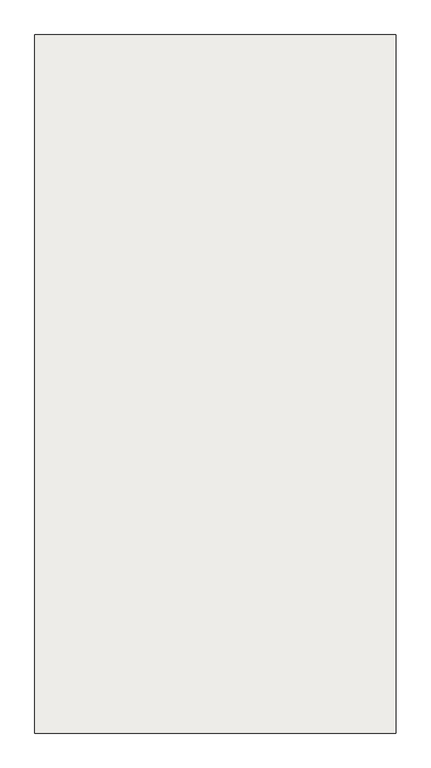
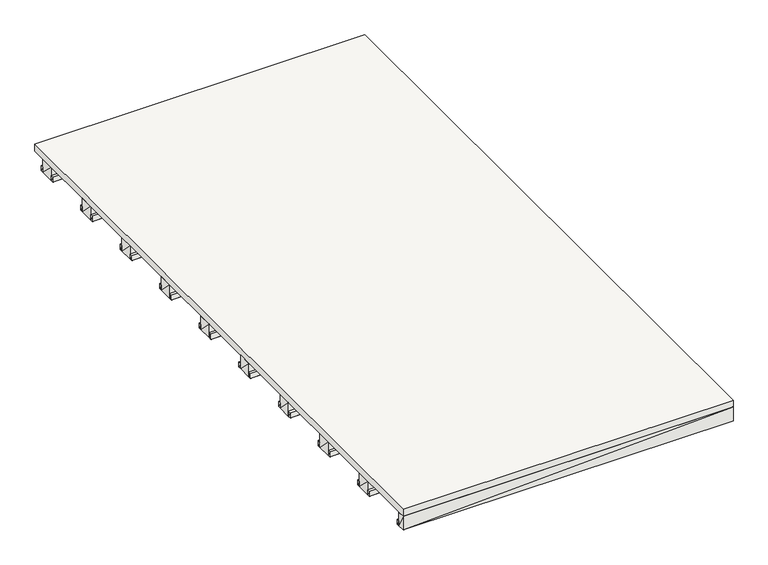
"""IFC4 building model written with IfcOpenShell, lengths in millimetres: slab geometry."""

from ifc_helpers import new_model, si_unit, frame, origin, place, context, project, spatial, polyline, outline, extrude, faceted_brep, source, transform, mapped, element, save


def slab_0752f4fd(model_context):
    return source(origin(), model_context, "Body", "SolidModel", [
        faceted_brep([(-914.995, -207.4, -120.0), (914.995, -207.4, -120.0), (914.995, -287.4, -120.0), (-914.995, -287.4, -120.0), (-914.995, -287.4, -40.0), (914.995, -287.4, -40.0), (914.995, -207.4, -40.0), (-914.995, -207.4, -40.0)], [[[0, 1, 2, 3]], [[4, 5, 6, 7]], [[4, 3, 5]], [[3, 2, 5]], [[5, 2, 6]], [[2, 1, 6]], [[6, 1, 7]], [[1, 0, 7]], [[7, 0, 4]], [[0, 3, 4]]]),
        faceted_brep([(-914.995, -667.4, -120.0), (914.995, -667.4, -120.0), (914.995, -682.4, -120.0), (-914.995, -682.4, -120.0), (-914.995, -682.4, -90.0), (914.995, -682.4, -90.0), (914.995, -667.4, -90.0), (-914.995, -667.4, -90.0)], [[[0, 1, 2, 3]], [[4, 5, 6, 7]], [[4, 3, 5]], [[3, 2, 5]], [[5, 2, 6]], [[2, 1, 6]], [[6, 1, 7]], [[1, 0, 7]], [[7, 0, 4]], [[0, 3, 4]]]),
        faceted_brep([(-914.995, -1727.4, -120.0), (914.995, -1727.4, -120.0), (914.995, -1767.395, -120.0), (-914.995, -1767.395, -120.0), (-914.995, -1767.395, -40.0), (914.995, -1767.395, -40.0), (914.995, -1727.4, -40.0), (-914.995, -1727.4, -40.0)], [[[0, 1, 2, 3]], [[4, 5, 6, 7]], [[4, 3, 5]], [[3, 2, 5]], [[5, 2, 6]], [[2, 1, 6]], [[6, 1, 7]], [[1, 0, 7]], [[7, 0, 4]], [[0, 3, 4]]]),
        faceted_brep([(-914.995, -572.4, -120.0), (914.995, -572.4, -120.0), (914.995, -587.4, -120.0), (-914.995, -587.4, -120.0), (-914.995, -587.4, -90.0), (914.995, -587.4, -90.0), (914.995, -572.4, -90.0), (-914.995, -572.4, -90.0)], [[[0, 1, 2, 3]], [[4, 5, 6, 7]], [[4, 3, 5]], [[3, 2, 5]], [[5, 2, 6]], [[2, 1, 6]], [[6, 1, 7]], [[1, 0, 7]], [[7, 0, 4]], [[0, 3, 4]]]),
        extrude(outline(polyline([(-914.99, 1767.4), (914.99, 1767.4), (915.0, -1767.4), (-915.0, -1767.39), (-914.99, 1767.4)])), frame((0.0, 0.0, -40.0), z_axis=(0.0, 0.0, 1.0), x_axis=(1.0, 0.0, 0.0)), (0.0, 0.0, 1.0), 40.0),
        faceted_brep([(-914.995, -287.4, -120.0), (914.995, -287.4, -120.0), (914.995, -302.4, -120.0), (-914.995, -302.4, -120.0), (-914.995, -302.4, -90.0), (914.995, -302.4, -90.0), (914.995, -287.4, -90.0), (-914.995, -287.4, -90.0)], [[[0, 1, 2, 3]], [[4, 5, 6, 7]], [[4, 3, 5]], [[3, 2, 5]], [[5, 2, 6]], [[2, 1, 6]], [[6, 1, 7]], [[1, 0, 7]], [[7, 0, 4]], [[0, 3, 4]]]),
        faceted_brep([(-914.995, 852.6, -120.0), (914.995, 852.6, -120.0), (914.995, 837.6, -120.0), (-914.995, 837.6, -120.0), (-914.995, 837.6, -90.0), (914.995, 837.6, -90.0), (914.995, 852.6, -90.0), (-914.995, 852.6, -90.0)], [[[0, 1, 2, 3]], [[4, 5, 6, 7]], [[4, 3, 5]], [[3, 2, 5]], [[5, 2, 6]], [[2, 1, 6]], [[6, 1, 7]], [[1, 0, 7]], [[7, 0, 4]], [[0, 3, 4]]]),
        faceted_brep([(-914.995, -1427.4, -120.0), (914.995, -1427.4, -120.0), (914.995, -1442.4, -120.0), (-914.995, -1442.4, -120.0), (-914.995, -1442.4, -90.0), (914.995, -1442.4, -90.0), (914.995, -1427.4, -90.0), (-914.995, -1427.4, -90.0)], [[[0, 1, 2, 3]], [[4, 5, 6, 7]], [[4, 3, 5]], [[3, 2, 5]], [[5, 2, 6]], [[2, 1, 6]], [[6, 1, 7]], [[1, 0, 7]], [[7, 0, 4]], [[0, 3, 4]]]),
        faceted_brep([(-914.995, -967.4, -120.0), (914.995, -967.4, -120.0), (914.995, -1047.4, -120.0), (-914.995, -1047.4, -120.0), (-914.995, -1047.4, -40.0), (914.995, -1047.4, -40.0), (914.995, -967.4, -40.0), (-914.995, -967.4, -40.0)], [[[0, 1, 2, 3]], [[4, 5, 6, 7]], [[4, 3, 5]], [[3, 2, 5]], [[5, 2, 6]], [[2, 1, 6]], [[6, 1, 7]], [[1, 0, 7]], [[7, 0, 4]], [[0, 3, 4]]]),
        faceted_brep([(-914.995, 1232.6, -120.0), (914.995, 1232.6, -120.0), (914.995, 1217.6, -120.0), (-914.995, 1217.6, -120.0), (-914.995, 1217.6, -90.0), (914.995, 1217.6, -90.0), (914.995, 1232.6, -90.0), (-914.995, 1232.6, -90.0)], [[[0, 1, 2, 3]], [[4, 5, 6, 7]], [[4, 3, 5]], [[3, 2, 5]], [[5, 2, 6]], [[2, 1, 6]], [[6, 1, 7]], [[1, 0, 7]], [[7, 0, 4]], [[0, 3, 4]]]),
        faceted_brep([(-914.995, 1707.6, -120.0), (914.995, 1707.6, -120.0), (914.995, 1692.6, -120.0), (-914.995, 1692.6, -120.0), (-914.995, 1692.6, -90.0), (914.995, 1692.6, -90.0), (914.995, 1707.6, -90.0), (-914.995, 1707.6, -90.0)], [[[0, 1, 2, 3]], [[4, 5, 6, 7]], [[4, 3, 5]], [[3, 2, 5]], [[5, 2, 6]], [[2, 1, 6]], [[6, 1, 7]], [[1, 0, 7]], [[7, 0, 4]], [[0, 3, 4]]]),
        faceted_brep([(-914.995, 1327.6, -120.0), (914.995, 1327.6, -120.0), (914.995, 1312.6, -120.0), (-914.995, 1312.6, -120.0), (-914.995, 1312.6, -90.0), (914.995, 1312.6, -90.0), (914.995, 1327.6, -90.0), (-914.995, 1327.6, -90.0)], [[[0, 1, 2, 3]], [[4, 5, 6, 7]], [[4, 3, 5]], [[3, 2, 5]], [[5, 2, 6]], [[2, 1, 6]], [[6, 1, 7]], [[1, 0, 7]], [[7, 0, 4]], [[0, 3, 4]]]),
        faceted_brep([(-914.995, 567.6, -120.0), (914.995, 567.6, -120.0), (914.995, 552.6, -120.0), (-914.995, 552.6, -120.0), (-914.995, 552.6, -90.0), (914.995, 552.6, -90.0), (914.995, 567.6, -90.0), (-914.995, 567.6, -90.0)], [[[0, 1, 2, 3]], [[4, 5, 6, 7]], [[4, 3, 5]], [[3, 2, 5]], [[5, 2, 6]], [[2, 1, 6]], [[6, 1, 7]], [[1, 0, 7]], [[7, 0, 4]], [[0, 3, 4]]]),
        faceted_brep([(-914.995, 187.6, -120.0), (914.995, 187.6, -120.0), (914.995, 172.6, -120.0), (-914.995, 172.6, -120.0), (-914.995, 172.6, -90.0), (914.995, 172.6, -90.0), (914.995, 187.6, -90.0), (-914.995, 187.6, -90.0)], [[[0, 1, 2, 3]], [[4, 5, 6, 7]], [[4, 3, 5]], [[3, 2, 5]], [[5, 2, 6]], [[2, 1, 6]], [[6, 1, 7]], [[1, 0, 7]], [[7, 0, 4]], [[0, 3, 4]]]),
        faceted_brep([(-914.995, 1612.6, -120.0), (914.995, 1612.6, -120.0), (914.995, 1597.6, -120.0), (-914.995, 1597.6, -120.0), (-914.995, 1597.6, -90.0), (914.995, 1597.6, -90.0), (914.995, 1612.6, -90.0), (-914.995, 1612.6, -90.0)], [[[0, 1, 2, 3]], [[4, 5, 6, 7]], [[4, 3, 5]], [[3, 2, 5]], [[5, 2, 6]], [[2, 1, 6]], [[6, 1, 7]], [[1, 0, 7]], [[7, 0, 4]], [[0, 3, 4]]]),
        faceted_brep([(-914.995, -192.4, -120.0), (914.995, -192.4, -120.0), (914.995, -207.4, -120.0), (-914.995, -207.4, -120.0), (-914.995, -207.4, -90.0), (914.995, -207.4, -90.0), (914.995, -192.4, -90.0), (-914.995, -192.4, -90.0)], [[[0, 1, 2, 3]], [[4, 5, 6, 7]], [[4, 3, 5]], [[3, 2, 5]], [[5, 2, 6]], [[2, 1, 6]], [[6, 1, 7]], [[1, 0, 7]], [[7, 0, 4]], [[0, 3, 4]]]),
        faceted_brep([(-914.995, 932.6, -120.0), (914.995, 932.6, -120.0), (914.995, 852.6, -120.0), (-914.995, 852.6, -120.0), (-914.995, 852.6, -40.0), (914.995, 852.6, -40.0), (914.995, 932.6, -40.0), (-914.995, 932.6, -40.0)], [[[0, 1, 2, 3]], [[4, 5, 6, 7]], [[4, 3, 5]], [[3, 2, 5]], [[5, 2, 6]], [[2, 1, 6]], [[6, 1, 7]], [[1, 0, 7]], [[7, 0, 4]], [[0, 3, 4]]]),
        faceted_brep([(-914.995, -1712.4, -120.0), (914.995, -1712.4, -120.0), (914.995, -1727.4, -120.0), (-914.995, -1727.4, -120.0), (-914.995, -1727.4, -90.0), (914.995, -1727.4, -90.0), (914.995, -1712.4, -90.0), (-914.995, -1712.4, -90.0)], [[[0, 1, 2, 3]], [[4, 5, 6, 7]], [[4, 3, 5]], [[3, 2, 5]], [[5, 2, 6]], [[2, 1, 6]], [[6, 1, 7]], [[1, 0, 7]], [[7, 0, 4]], [[0, 3, 4]]]),
        faceted_brep([(-914.995, 1692.6, -120.0), (914.995, 1692.6, -120.0), (914.995, 1612.6, -120.0), (-914.995, 1612.6, -120.0), (-914.995, 1612.6, -40.0), (914.995, 1612.6, -40.0), (914.995, 1692.6, -40.0), (-914.995, 1692.6, -40.0)], [[[0, 1, 2, 3]], [[4, 5, 6, 7]], [[4, 3, 5]], [[3, 2, 5]], [[5, 2, 6]], [[2, 1, 6]], [[6, 1, 7]], [[1, 0, 7]], [[7, 0, 4]], [[0, 3, 4]]]),
        faceted_brep([(-914.995, 92.6, -120.0), (914.995, 92.6, -120.0), (914.995, 77.6, -120.0), (-914.995, 77.6, -120.0), (-914.995, 77.6, -90.0), (914.995, 77.6, -90.0), (914.995, 92.6, -90.0), (-914.995, 92.6, -90.0)], [[[0, 1, 2, 3]], [[4, 5, 6, 7]], [[4, 3, 5]], [[3, 2, 5]], [[5, 2, 6]], [[2, 1, 6]], [[6, 1, 7]], [[1, 0, 7]], [[7, 0, 4]], [[0, 3, 4]]]),
        faceted_brep([(-914.995, -952.4, -120.0), (914.995, -952.4, -120.0), (914.995, -967.4, -120.0), (-914.995, -967.4, -120.0), (-914.995, -967.4, -90.0), (914.995, -967.4, -90.0), (914.995, -952.4, -90.0), (-914.995, -952.4, -90.0)], [[[0, 1, 2, 3]], [[4, 5, 6, 7]], [[4, 3, 5]], [[3, 2, 5]], [[5, 2, 6]], [[2, 1, 6]], [[6, 1, 7]], [[1, 0, 7]], [[7, 0, 4]], [[0, 3, 4]]]),
        faceted_brep([(-914.995, -587.4, -120.0), (914.995, -587.4, -120.0), (914.995, -667.4, -120.0), (-914.995, -667.4, -120.0), (-914.995, -667.4, -40.0), (914.995, -667.4, -40.0), (914.995, -587.4, -40.0), (-914.995, -587.4, -40.0)], [[[0, 1, 2, 3]], [[4, 5, 6, 7]], [[4, 3, 5]], [[3, 2, 5]], [[5, 2, 6]], [[2, 1, 6]], [[6, 1, 7]], [[1, 0, 7]], [[7, 0, 4]], [[0, 3, 4]]]),
        faceted_brep([(-914.995, -1332.4, -120.0), (914.995, -1332.4, -120.0), (914.995, -1347.4, -120.0), (-914.995, -1347.4, -120.0), (-914.995, -1347.4, -90.0), (914.995, -1347.4, -90.0), (914.995, -1332.4, -90.0), (-914.995, -1332.4, -90.0)], [[[0, 1, 2, 3]], [[4, 5, 6, 7]], [[4, 3, 5]], [[3, 2, 5]], [[5, 2, 6]], [[2, 1, 6]], [[6, 1, 7]], [[1, 0, 7]], [[7, 0, 4]], [[0, 3, 4]]]),
        faceted_brep([(-914.995, 172.6, -120.0), (914.995, 172.6, -120.0), (914.995, 92.6, -120.0), (-914.995, 92.6, -120.0), (-914.995, 92.6, -40.0), (914.995, 92.6, -40.0), (914.995, 172.6, -40.0), (-914.995, 172.6, -40.0)], [[[0, 1, 2, 3]], [[4, 5, 6, 7]], [[4, 3, 5]], [[3, 2, 5]], [[5, 2, 6]], [[2, 1, 6]], [[6, 1, 7]], [[1, 0, 7]], [[7, 0, 4]], [[0, 3, 4]]]),
        faceted_brep([(-914.995, 1312.6, -120.0), (914.995, 1312.6, -120.0), (914.995, 1232.6, -120.0), (-914.995, 1232.6, -120.0), (-914.995, 1232.6, -40.0), (914.995, 1232.6, -40.0), (914.995, 1312.6, -40.0), (-914.995, 1312.6, -40.0)], [[[0, 1, 2, 3]], [[4, 5, 6, 7]], [[4, 3, 5]], [[3, 2, 5]], [[5, 2, 6]], [[2, 1, 6]], [[6, 1, 7]], [[1, 0, 7]], [[7, 0, 4]], [[0, 3, 4]]]),
        faceted_brep([(-914.995, -1047.4, -120.0), (914.995, -1047.4, -120.0), (914.995, -1062.4, -120.0), (-914.995, -1062.4, -120.0), (-914.995, -1062.4, -90.0), (914.995, -1062.4, -90.0), (914.995, -1047.4, -90.0), (-914.995, -1047.4, -90.0)], [[[0, 1, 2, 3]], [[4, 5, 6, 7]], [[4, 3, 5]], [[3, 2, 5]], [[5, 2, 6]], [[2, 1, 6]], [[6, 1, 7]], [[1, 0, 7]], [[7, 0, 4]], [[0, 3, 4]]]),
        faceted_brep([(-914.995, 552.6, -120.0), (914.995, 552.6, -120.0), (914.995, 472.6, -120.0), (-914.995, 472.6, -120.0), (-914.995, 472.6, -40.0), (914.995, 472.6, -40.0), (914.995, 552.6, -40.0), (-914.995, 552.6, -40.0)], [[[0, 1, 2, 3]], [[4, 5, 6, 7]], [[4, 3, 5]], [[3, 2, 5]], [[5, 2, 6]], [[2, 1, 6]], [[6, 1, 7]], [[1, 0, 7]], [[7, 0, 4]], [[0, 3, 4]]]),
        faceted_brep([(-914.995, -1347.4, -120.0), (914.995, -1347.4, -120.0), (914.995, -1427.4, -120.0), (-914.995, -1427.4, -120.0), (-914.995, -1427.4, -40.0), (914.995, -1427.4, -40.0), (914.995, -1347.4, -40.0), (-914.995, -1347.4, -40.0)], [[[0, 1, 2, 3]], [[4, 5, 6, 7]], [[4, 3, 5]], [[3, 2, 5]], [[5, 2, 6]], [[2, 1, 6]], [[6, 1, 7]], [[1, 0, 7]], [[7, 0, 4]], [[0, 3, 4]]]),
        faceted_brep([(-914.995, 472.6, -120.0), (914.995, 472.6, -120.0), (914.995, 457.6, -120.0), (-914.995, 457.6, -120.0), (-914.995, 457.6, -90.0), (914.995, 457.6, -90.0), (914.995, 472.6, -90.0), (-914.995, 472.6, -90.0)], [[[0, 1, 2, 3]], [[4, 5, 6, 7]], [[4, 3, 5]], [[3, 2, 5]], [[5, 2, 6]], [[2, 1, 6]], [[6, 1, 7]], [[1, 0, 7]], [[7, 0, 4]], [[0, 3, 4]]]),
        faceted_brep([(-914.995, 947.6, -120.0), (914.995, 947.6, -120.0), (914.995, 932.6, -120.0), (-914.995, 932.6, -120.0), (-914.995, 932.6, -90.0), (914.995, 932.6, -90.0), (914.995, 947.6, -90.0), (-914.995, 947.6, -90.0)], [[[0, 1, 2, 3]], [[4, 5, 6, 7]], [[4, 3, 5]], [[3, 2, 5]], [[5, 2, 6]], [[2, 1, 6]], [[6, 1, 7]], [[1, 0, 7]], [[7, 0, 4]], [[0, 3, 4]]]),
    ])


if __name__ == "__main__":
    model = new_model("IFC4")
    model_context = context("Model", 3, world=origin())
    ifc_project = project(units=[si_unit("LENGTHUNIT", "METRE", prefix="MILLI")], contexts=[model_context])
    site = spatial("IfcSite", under=ifc_project)
    building = spatial("IfcBuilding", under=site)
    placement = place(None, origin())
    slab_shape = slab_0752f4fd(model_context)
    element("IfcSlab", 1, at=placement, inside=building, context=model_context, shape_type="MappedRepresentation", body=[
        mapped(slab_shape, transform((0.0, 0.0, 0.0), x_axis=(1.0, 0.0, 0.0), y_axis=(0.0, 1.0, 0.0), z_axis=(0.0, 0.0, 1.0))),
    ])
    save(model, "model.ifc")
